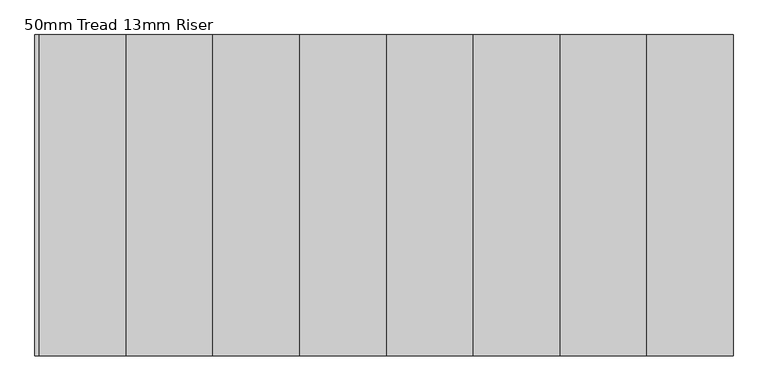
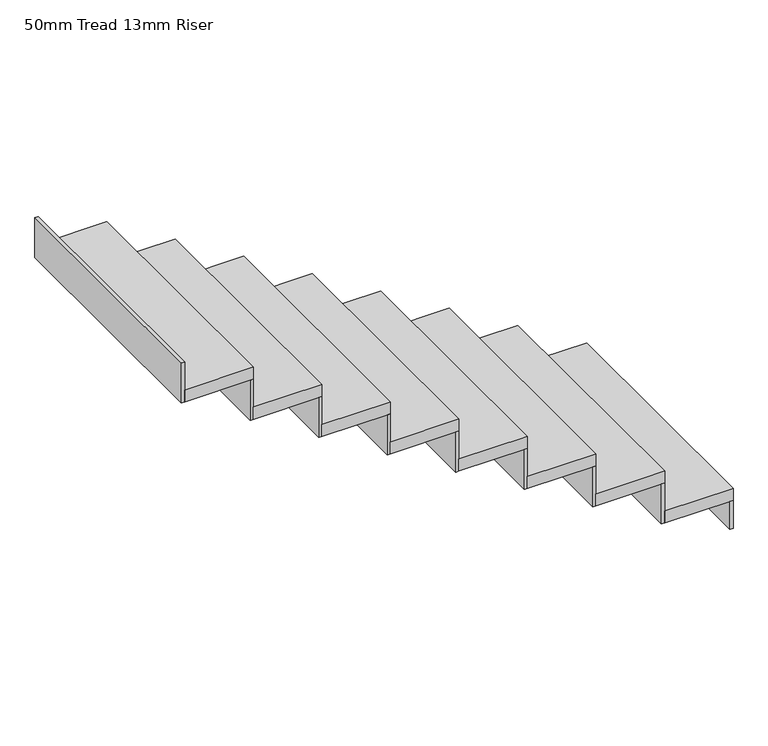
"""IFC4 building model written with IfcOpenShell, lengths in millimetres: stair flight geometry, 50mm Tread 13mm Riser."""

from ifc_helpers import new_model, si_unit, frame, origin, place, context, project, spatial, polyline, outline, extrude, source, transform, mapped, element, save


def stair_flight_50mm_tread_13mm_riser_e022b7d3(model_context):
    return source(origin(), model_context, "Body", "SweptSolid", [
        extrude(outline(polyline([(-105181.4945013, 13172.4703498), (-105168.9945013, 13172.4703498), (-105168.9945013, 12172.4703498), (-105181.4945013, 12172.4703498), (-105181.4945013, 13172.4703498)])), frame((0.0, 0.0, 44170.0), z_axis=(0.0, 0.0, 1.0), x_axis=(1.0, 0.0, 0.0)), (0.0, 0.0, 1.0), 116.6666667),
        extrude(outline(polyline([(-105438.9945013, 12172.4703498), (-105438.9945013, 13172.4703498), (-105168.9945013, 13172.4703498), (-105168.9945013, 12172.4703498), (-105438.9945013, 12172.4703498)])), frame((0.0, 0.0, 44286.6666667), z_axis=(0.0, 0.0, 1.0), x_axis=(1.0, 0.0, 0.0)), (0.0, 0.0, 1.0), 50.0),
        extrude(outline(polyline([(-105451.4945013, 13172.4703498), (-105438.9945013, 13172.4703498), (-105438.9945013, 12172.4703498), (-105451.4945013, 12172.4703498), (-105451.4945013, 13172.4703498)])), frame((0.0, 0.0, 44286.6666667), z_axis=(0.0, 0.0, 1.0), x_axis=(1.0, 0.0, 0.0)), (0.0, 0.0, 1.0), 166.6666667),
        extrude(outline(polyline([(-105708.9945013, 12172.4703498), (-105708.9945013, 13172.4703498), (-105438.9945013, 13172.4703498), (-105438.9945013, 12172.4703498), (-105708.9945013, 12172.4703498)])), frame((0.0, 0.0, 44453.3333333), z_axis=(0.0, 0.0, 1.0), x_axis=(1.0, 0.0, 0.0)), (0.0, 0.0, 1.0), 50.0),
        extrude(outline(polyline([(-105721.4945013, 13172.4703498), (-105708.9945013, 13172.4703498), (-105708.9945013, 12172.4703498), (-105721.4945013, 12172.4703498), (-105721.4945013, 13172.4703498)])), frame((0.0, 0.0, 44453.3333333), z_axis=(0.0, 0.0, 1.0), x_axis=(1.0, 0.0, 0.0)), (0.0, 0.0, 1.0), 166.6666667),
        extrude(outline(polyline([(-105978.9945013, 12172.4703498), (-105978.9945013, 13172.4703498), (-105708.9945013, 13172.4703498), (-105708.9945013, 12172.4703498), (-105978.9945013, 12172.4703498)])), frame((0.0, 0.0, 44620.0), z_axis=(0.0, 0.0, 1.0), x_axis=(1.0, 0.0, 0.0)), (0.0, 0.0, 1.0), 50.0),
        extrude(outline(polyline([(-105991.4945013, 13172.4703498), (-105978.9945013, 13172.4703498), (-105978.9945013, 12172.4703498), (-105991.4945013, 12172.4703498), (-105991.4945013, 13172.4703498)])), frame((0.0, 0.0, 44620.0), z_axis=(0.0, 0.0, 1.0), x_axis=(1.0, 0.0, 0.0)), (0.0, 0.0, 1.0), 166.6666667),
        extrude(outline(polyline([(-106248.9945013, 12172.4703498), (-106248.9945013, 13172.4703498), (-105978.9945013, 13172.4703498), (-105978.9945013, 12172.4703498), (-106248.9945013, 12172.4703498)])), frame((0.0, 0.0, 44786.6666667), z_axis=(0.0, 0.0, 1.0), x_axis=(1.0, 0.0, 0.0)), (0.0, 0.0, 1.0), 50.0),
        extrude(outline(polyline([(-106261.4945013, 13172.4703498), (-106248.9945013, 13172.4703498), (-106248.9945013, 12172.4703498), (-106261.4945013, 12172.4703498), (-106261.4945013, 13172.4703498)])), frame((0.0, 0.0, 44786.6666667), z_axis=(0.0, 0.0, 1.0), x_axis=(1.0, 0.0, 0.0)), (0.0, 0.0, 1.0), 166.6666667),
        extrude(outline(polyline([(-106518.9945013, 12172.4703498), (-106518.9945013, 13172.4703498), (-106248.9945013, 13172.4703498), (-106248.9945013, 12172.4703498), (-106518.9945013, 12172.4703498)])), frame((0.0, 0.0, 44953.3333333), z_axis=(0.0, 0.0, 1.0), x_axis=(1.0, 0.0, 0.0)), (0.0, 0.0, 1.0), 50.0),
        extrude(outline(polyline([(-106531.4945013, 13172.4703498), (-106518.9945013, 13172.4703498), (-106518.9945013, 12172.4703498), (-106531.4945013, 12172.4703498), (-106531.4945013, 13172.4703498)])), frame((0.0, 0.0, 44953.3333333), z_axis=(0.0, 0.0, 1.0), x_axis=(1.0, 0.0, 0.0)), (0.0, 0.0, 1.0), 166.6666667),
        extrude(outline(polyline([(-106788.9945013, 12172.4703498), (-106788.9945013, 13172.4703498), (-106518.9945013, 13172.4703498), (-106518.9945013, 12172.4703498), (-106788.9945013, 12172.4703498)])), frame((0.0, 0.0, 45120.0), z_axis=(0.0, 0.0, 1.0), x_axis=(1.0, 0.0, 0.0)), (0.0, 0.0, 1.0), 50.0),
        extrude(outline(polyline([(-106801.4945013, 13172.4703498), (-106788.9945013, 13172.4703498), (-106788.9945013, 12172.4703498), (-106801.4945013, 12172.4703498), (-106801.4945013, 13172.4703498)])), frame((0.0, 0.0, 45120.0), z_axis=(0.0, 0.0, 1.0), x_axis=(1.0, 0.0, 0.0)), (0.0, 0.0, 1.0), 166.6666667),
        extrude(outline(polyline([(-107058.9945013, 12172.4703498), (-107058.9945013, 13172.4703498), (-106788.9945013, 13172.4703498), (-106788.9945013, 12172.4703498), (-107058.9945013, 12172.4703498)])), frame((0.0, 0.0, 45286.6666667), z_axis=(0.0, 0.0, 1.0), x_axis=(1.0, 0.0, 0.0)), (0.0, 0.0, 1.0), 50.0),
        extrude(outline(polyline([(-107071.4945013, 13172.4703498), (-107058.9945013, 13172.4703498), (-107058.9945013, 12172.4703498), (-107071.4945013, 12172.4703498), (-107071.4945013, 13172.4703498)])), frame((0.0, 0.0, 45286.6666667), z_axis=(0.0, 0.0, 1.0), x_axis=(1.0, 0.0, 0.0)), (0.0, 0.0, 1.0), 166.6666667),
        extrude(outline(polyline([(-107341.4945013, 13172.4703498), (-107328.9945013, 13172.4703498), (-107328.9945013, 12172.4703498), (-107341.4945013, 12172.4703498), (-107341.4945013, 13172.4703498)])), frame((0.0, 0.0, 45453.3333333), z_axis=(0.0, 0.0, 1.0), x_axis=(1.0, 0.0, 0.0)), (0.0, 0.0, 1.0), 166.6666667),
        extrude(outline(polyline([(-107328.9945013, 12172.4703498), (-107328.9945013, 13172.4703498), (-107058.9945013, 13172.4703498), (-107058.9945013, 12172.4703498), (-107328.9945013, 12172.4703498)])), frame((0.0, 0.0, 45453.3333333), z_axis=(0.0, 0.0, 1.0), x_axis=(1.0, 0.0, 0.0)), (0.0, 0.0, 1.0), 50.0),
    ])


if __name__ == "__main__":
    model = new_model("IFC4")
    model_context = context("Model", 3, world=origin())
    ifc_project = project(units=[si_unit("LENGTHUNIT", "METRE", prefix="MILLI")], contexts=[model_context])
    site = spatial("IfcSite", under=ifc_project)
    building = spatial("IfcBuilding", under=site)
    placement = place(None, origin())
    stair_flight_50mm_tread_13mm_riser_shape = stair_flight_50mm_tread_13mm_riser_e022b7d3(model_context)
    element("IfcStairFlight", 1, ObjectType="50mm Tread 13mm Riser", at=placement, inside=building, context=model_context, shape_type="MappedRepresentation", body=[
        mapped(stair_flight_50mm_tread_13mm_riser_shape, transform((0.0, 0.0, 0.0), x_axis=(1.0, 0.0, 0.0), y_axis=(0.0, 1.0, 0.0), z_axis=(0.0, 0.0, 1.0))),
    ])
    save(model, "model.ifc")
